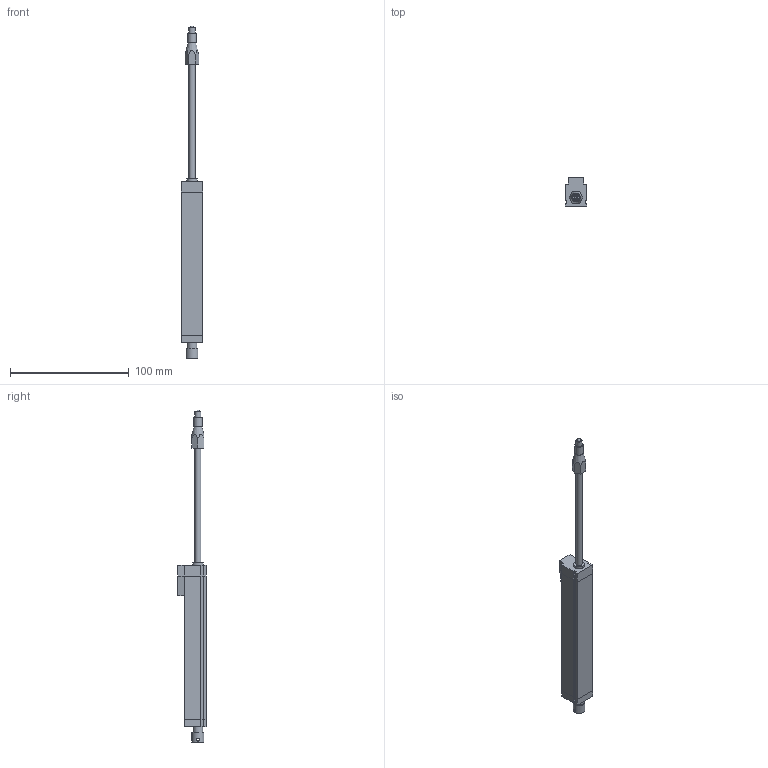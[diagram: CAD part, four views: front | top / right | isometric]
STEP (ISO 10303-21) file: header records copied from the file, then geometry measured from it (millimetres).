
FILE_DESCRIPTION(/* description */ ('','CAx-IF Rec.Pracs.---Representation and Presentation of Product Manufacturing Information (PMI)---3.8---2014-02-18'),/* implementation_level */ '2;1');
FILE_NAME(/* name */ 'C:\Users\JN\Documents\CAD Drawings\The Sensor Connection\3D\LPPS\LPPS-SL-75.stp',/* time_stamp */ '2017-01-05T12:38:43-05:00',/* author */ ('JN'),/* organization */ (''),/* preprocessor_version */ 'ST-DEVELOPER v16.5',/* originating_system */ 'Autodesk Inventor LT',/* authorisation */ '');
FILE_SCHEMA (('AP242_MANAGED_MODEL_BASED_3D_ENGINEERING_MIM_LF { 1 0 10303 442 1 1 4 }'));
Length unit declared in the file: inch
Products named in the file (1): LPPS-SL-75
Bounding box: 18.29 x 23.88 x 279.41 mm (x, y, z)
Volume: 51047.8 mm3; surface area: 16848.5 mm2
Topology: 5 solids, 5 shells, 78 faces, 189 edges, 125 vertices
Faces by surface type: plane 67, cylinder 9, cone 1, sphere 1
Full cylindrical faces by diameter (mm): 2.388 x2, 5.08 x2, 6.96 x1, 7.206 x1, 8.103 x1, 9.042 x1, 10 x1
Entity records: 2322 total; most frequent: CARTESIAN_POINT 510, ORIENTED_EDGE 336, DIRECTION 331, EDGE_CURVE 168, LINE 141, VECTOR 141, VERTEX_POINT 117, EDGE_LOOP 99
